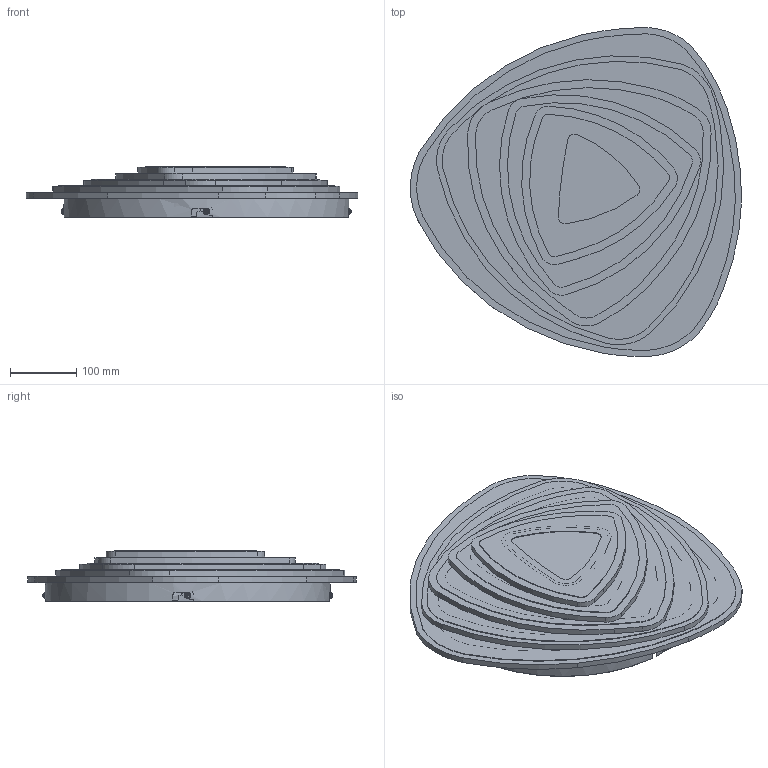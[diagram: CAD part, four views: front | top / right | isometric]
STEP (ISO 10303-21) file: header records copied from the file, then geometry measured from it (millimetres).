
FILE_DESCRIPTION(/* description */ (''),/* implementation_level */ '2;1');
FILE_NAME(/* name */ 'DC-LM--0102_VT-7959.stp',/* time_stamp */ '2026-06-11T10:57:15+08:00',/* author */ (''),/* organization */ (''),/* preprocessor_version */ 'ST-DEVELOPER v16',/* originating_system */ 'SIEMENS PLM Software NX 10.0',/* authorisation */ '');
FILE_SCHEMA (('AP203_CONFIGURATION_CONTROLLED_3D_DESIGN_OF_MECHANICAL_PARTS_AND_ASSEMBLIES_MIM_LF { 1 0 10303 403 2 1 2}'));
Length unit declared in the file: millimetre
Products named in the file (1): 10E103D9Dfz0l
Bounding box: 500.09 x 496.59 x 76 mm (x, y, z)
Volume: 1636595.4 mm3; surface area: 1182359.2 mm2
Topology: 16 solids, 17 shells, 447 faces, 1205 edges, 794 vertices
Faces by surface type: cylinder 258, plane 153, bspline 16, cone 16, torus 4
Full cylindrical faces by diameter (mm): 3.5 x4, 7 x4, 9.6 x4, 428 x1, 430 x1
Entity records: 30147 total; most frequent: CARTESIAN_POINT 18742, DIRECTION 2409, ORIENTED_EDGE 2354, EDGE_CURVE 1177, AXIS2_PLACEMENT_3D 965, VERTEX_POINT 786, EDGE_LOOP 523, CIRCLE 518
